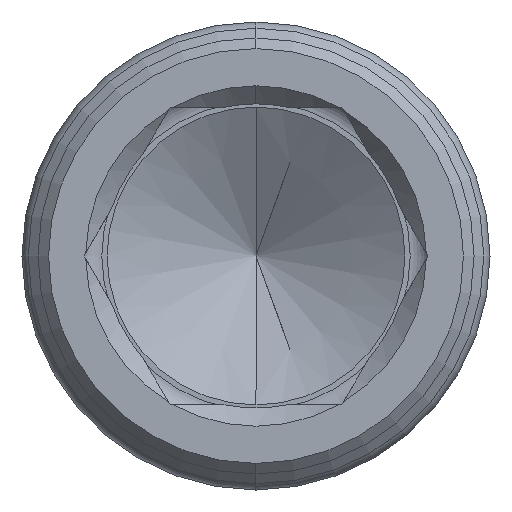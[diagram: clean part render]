
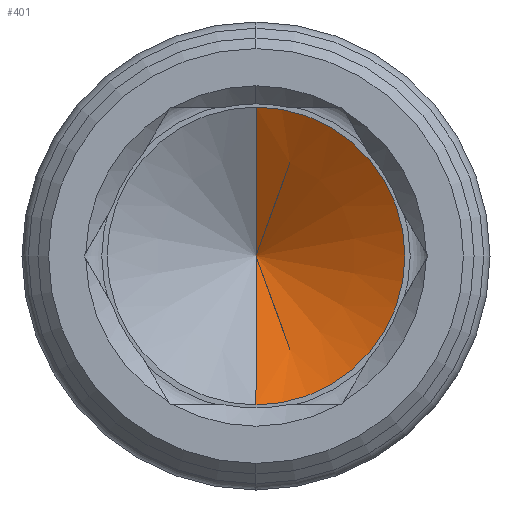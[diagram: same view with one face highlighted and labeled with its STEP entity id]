
A CAD part, left-side view. The second image highlights one B-rep face of the part: STEP entity #401.
In plain terms, the highlighted conical face has half-angle 59 degrees and reference radius 7 mm.
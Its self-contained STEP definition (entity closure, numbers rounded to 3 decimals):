
#66 = EDGE_CURVE ( 'NONE', #2688, #555, #1648, .T. ) ;
#114 = CARTESIAN_POINT ( 'NONE',  ( 24., 0., 7. ) ) ;
#120 = CARTESIAN_POINT ( 'NONE',  ( 24., 0., 7. ) ) ;
#122 = DIRECTION ( 'NONE',  ( -0.515, 0., -0.857 ) ) ;
#401 = ADVANCED_FACE ( 'NONE', ( #758 ), #1462, .F. ) ;
#547 = EDGE_LOOP ( 'NONE', ( #3109, #2392, #1809 ) ) ;
#555 = VERTEX_POINT ( 'NONE', #120 ) ;
#758 = FACE_OUTER_BOUND ( 'NONE', #547, .T. ) ;
#764 = CARTESIAN_POINT ( 'NONE',  ( 24., 0., 0. ) ) ;
#856 = LINE ( 'NONE', #2042, #2968 ) ;
#988 = DIRECTION ( 'NONE',  ( -1., 0., 0. ) ) ;
#1462 = CONICAL_SURFACE ( 'NONE', #1567, 7., 1.03 ) ;
#1567 = AXIS2_PLACEMENT_3D ( 'NONE', #1764, #2249, #2476 ) ;
#1648 = LINE ( 'NONE', #114, #2136 ) ;
#1731 = DIRECTION ( 'NONE',  ( 0., 0., 1. ) ) ;
#1754 = VERTEX_POINT ( 'NONE', #1986 ) ;
#1764 = CARTESIAN_POINT ( 'NONE',  ( 24., 0., 0. ) ) ;
#1809 = ORIENTED_EDGE ( 'NONE', *, *, #2855, .T. ) ;
#1986 = CARTESIAN_POINT ( 'NONE',  ( 24., 0., -7. ) ) ;
#2042 = CARTESIAN_POINT ( 'NONE',  ( 24., 0., -7. ) ) ;
#2136 = VECTOR ( 'NONE', #2953, 1000. ) ;
#2143 = CIRCLE ( 'NONE', #3012, 7. ) ;
#2249 = DIRECTION ( 'NONE',  ( -1., 0., 0. ) ) ;
#2351 = CARTESIAN_POINT ( 'NONE',  ( 28.206, 0., 0. ) ) ;
#2392 = ORIENTED_EDGE ( 'NONE', *, *, #2469, .T. ) ;
#2469 = EDGE_CURVE ( 'NONE', #2688, #1754, #856, .T. ) ;
#2476 = DIRECTION ( 'NONE',  ( 0., 0., 1. ) ) ;
#2688 = VERTEX_POINT ( 'NONE', #2351 ) ;
#2855 = EDGE_CURVE ( 'NONE', #1754, #555, #2143, .T. ) ;
#2953 = DIRECTION ( 'NONE',  ( -0.515, 0., 0.857 ) ) ;
#2968 = VECTOR ( 'NONE', #122, 1000. ) ;
#3012 = AXIS2_PLACEMENT_3D ( 'NONE', #764, #988, #1731 ) ;
#3109 = ORIENTED_EDGE ( 'NONE', *, *, #66, .F. ) ;
